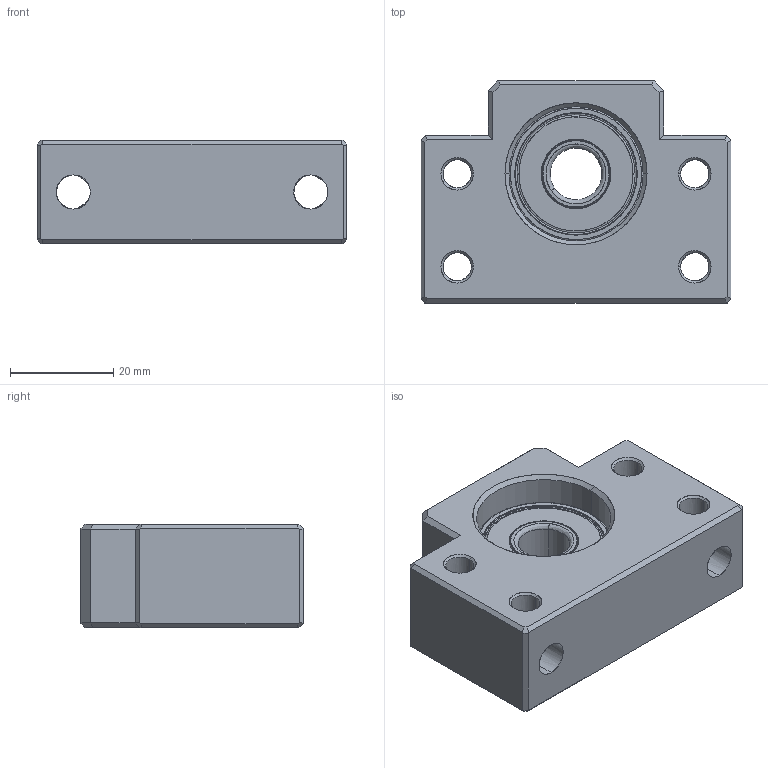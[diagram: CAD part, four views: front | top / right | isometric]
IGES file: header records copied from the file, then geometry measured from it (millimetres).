
Start section: SolidWorks IGES file using analytic representation for surfaces
Bounding box: 60 x 43 x 20 mm (x, y, z)
Surface area: 12279.2 mm2 (no closed solid volume)
Topology: 0 solids, 0 shells, 153 faces, 2396 edges, 2396 vertices
Faces by surface type: bspline 87, revolution 66
